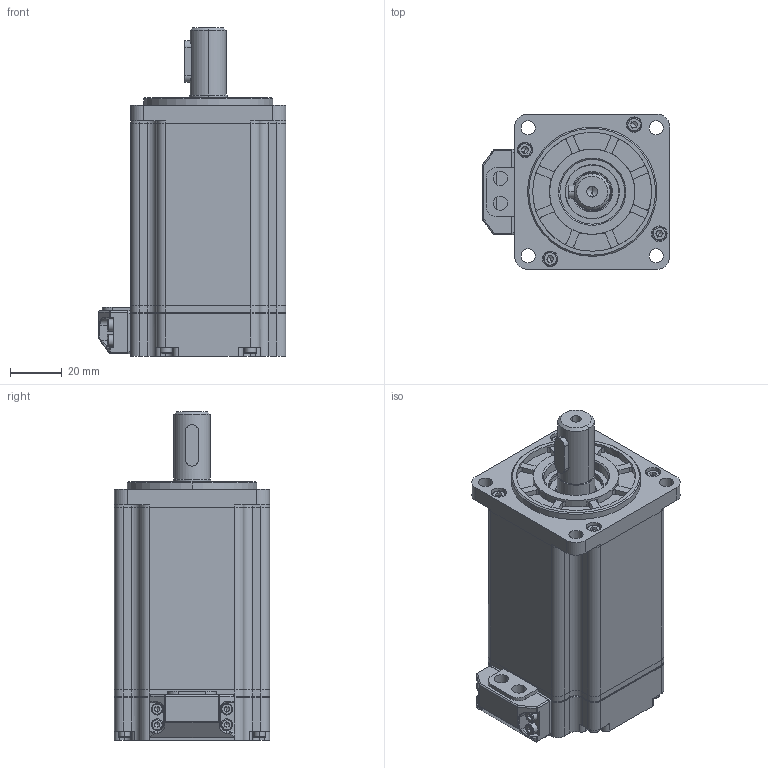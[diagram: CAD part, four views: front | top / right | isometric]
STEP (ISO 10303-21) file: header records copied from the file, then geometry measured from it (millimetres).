
FILE_DESCRIPTION (( 'STEP AP203' ), '1' );
FILE_NAME ('淕儂蚾饜1.STEP', '2020-08-04T02:26:19', ( 'admin' ), ( '' ), 'SwSTEP 2.0', 'SolidWorks 2016', '' );
FILE_SCHEMA (( 'CONFIG_CONTROL_DESIGN' ));
Length unit declared in the file: millimetre
Products named in the file (1): 淕儂蚾饜1
Bounding box: 72.5 x 60 x 127 mm (x, y, z)
Volume: 179559.4 mm3; surface area: 120236.1 mm2
Topology: 25 solids, 25 shells, 1426 faces, 4068 edges, 2581 vertices
Faces by surface type: cylinder 581, plane 482, cone 141, torus 140, sphere 72, bspline 10
Entity records: 48229 total; most frequent: CARTESIAN_POINT 11677, DIRECTION 7900, ORIENTED_EDGE 7614, EDGE_CURVE 3807, AXIS2_PLACEMENT_3D 3146, VERTEX_POINT 2465, CIRCLE 1729, EDGE_LOOP 1628
